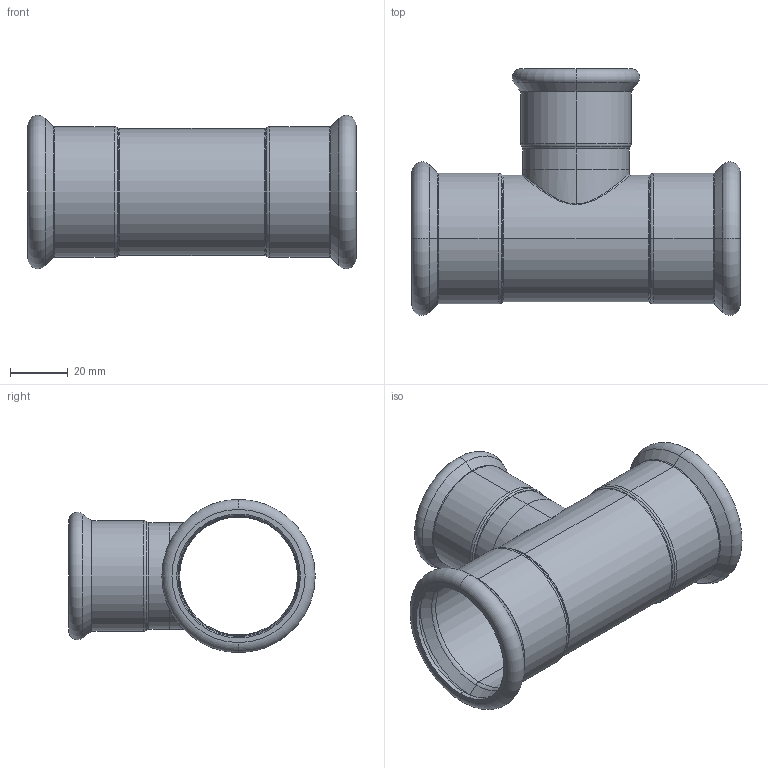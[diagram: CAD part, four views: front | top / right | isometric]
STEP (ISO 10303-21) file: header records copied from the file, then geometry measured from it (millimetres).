
FILE_DESCRIPTION (( 'STEP AP203' ), '1' );
FILE_NAME ('GDA5205.STEP', '2019-01-12T06:08:57', ( '' ), ( '' ), 'SwSTEP 2.0', 'SolidWorks 2015', '' );
FILE_SCHEMA (( 'CONFIG_CONTROL_DESIGN' ));
Length unit declared in the file: millimetre
Products named in the file (3): T(R)-¢ñ-42¡Á35''; T-ｉ-01-35; GDA5205
Assembly tree (2 placements, depth 2):
  GDA5205
    T(R)-¢ñ-42¡Á35''
    T-ｉ-01-35
Bounding box: 114 x 85.64 x 53.29 mm (x, y, z)
Volume: 31602.7 mm3; surface area: 43056.3 mm2
Topology: 2 solids, 2 shells, 114 faces, 234 edges, 128 vertices
Faces by surface type: torus 48, cylinder 30, cone 24, plane 8, bspline 4
Entity records: 4495 total; most frequent: CARTESIAN_POINT 1705, DIRECTION 620, ORIENTED_EDGE 468, AXIS2_PLACEMENT_3D 283, EDGE_CURVE 234, CIRCLE 168, VERTEX_POINT 128, EDGE_LOOP 124
